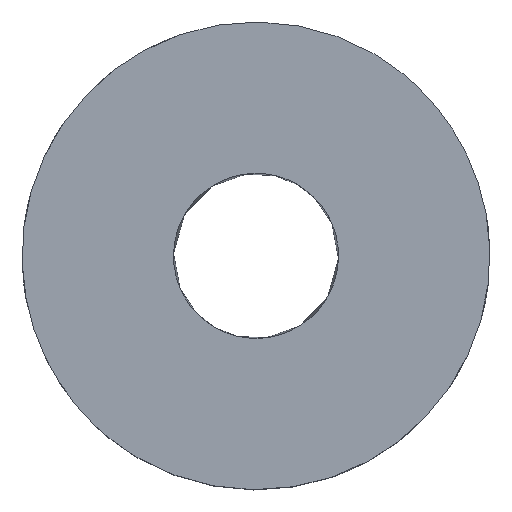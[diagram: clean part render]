
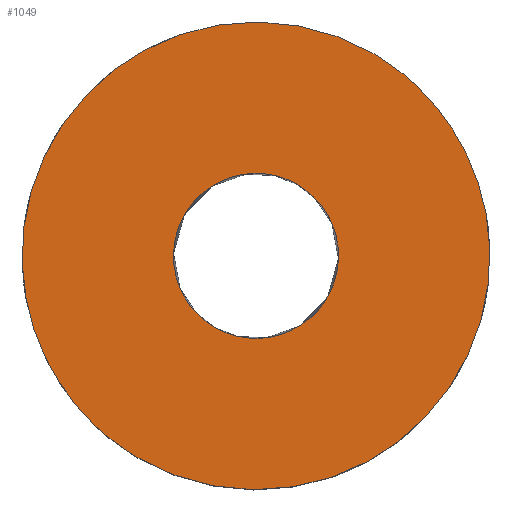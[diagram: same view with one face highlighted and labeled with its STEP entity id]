
A CAD part, top view. The second image highlights one B-rep face of the part: STEP entity #1049.
In plain terms, the highlighted planar face has unit normal (0, 0, 1).
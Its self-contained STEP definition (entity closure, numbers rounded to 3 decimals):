
#16=CARTESIAN_POINT('',(75.5,94.167,1.0));
#17=VERTEX_POINT('',#16);
#18=CARTESIAN_POINT('',(24.5,5.833,1.0));
#19=VERTEX_POINT('',#18);
#20=CARTESIAN_POINT('',(75.5,94.167,1.0));
#21=CARTESIAN_POINT('',(-12.835,145.167,1.0));
#22=CARTESIAN_POINT('',(-63.835,56.833,1.0));
#23=CARTESIAN_POINT('',(24.5,5.833,1.0));
#24=(BOUNDED_CURVE() B_SPLINE_CURVE(3,(#20,#21,#22,#23),.UNSPECIFIED.,.F.,.U.)
  B_SPLINE_CURVE_WITH_KNOTS((4,4),(0.0,1.0),.UNSPECIFIED.)
  CURVE() GEOMETRIC_REPRESENTATION_ITEM() RATIONAL_B_SPLINE_CURVE((1.0,0.333,0.333,1.0))  REPRESENTATION_ITEM('') );
#25=EDGE_CURVE('',#17,#19,#24,.T.);
#66=CARTESIAN_POINT('',(24.5,5.833,1.0));
#67=CARTESIAN_POINT('',(112.835,-45.167,1.0));
#68=CARTESIAN_POINT('',(163.835,43.167,1.0));
#69=CARTESIAN_POINT('',(75.5,94.167,1.0));
#70=(BOUNDED_CURVE() B_SPLINE_CURVE(3,(#66,#67,#68,#69),.UNSPECIFIED.,.F.,.U.)
  B_SPLINE_CURVE_WITH_KNOTS((4,4),(0.0,1.0),.UNSPECIFIED.)
  CURVE() GEOMETRIC_REPRESENTATION_ITEM() RATIONAL_B_SPLINE_CURVE((1.0,0.333,0.333,1.0))  REPRESENTATION_ITEM('') );
#71=EDGE_CURVE('',#19,#17,#70,.T.);
#218=CARTESIAN_POINT('',(59.0,65.588,1.0));
#219=VERTEX_POINT('',#218);
#220=CARTESIAN_POINT('',(41.0,34.412,1.0));
#221=VERTEX_POINT('',#220);
#222=CARTESIAN_POINT('',(59.0,65.588,1.0));
#223=CARTESIAN_POINT('',(58.35,65.963,1.0));
#224=CARTESIAN_POINT('',(57.637,66.322,1.0));
#225=CARTESIAN_POINT('',(56.851,66.645,1.0));
#226=CARTESIAN_POINT('',(56.065,66.969,1.0));
#227=CARTESIAN_POINT('',(55.208,67.257,1.0));
#228=CARTESIAN_POINT('',(54.275,67.485,1.0));
#229=CARTESIAN_POINT('',(53.343,67.713,1.0));
#230=CARTESIAN_POINT('',(52.335,67.88,1.0));
#231=CARTESIAN_POINT('',(51.259,67.956,1.0));
#232=CARTESIAN_POINT('',(50.183,68.031,1.0));
#233=CARTESIAN_POINT('',(49.038,68.014,1.0));
#234=CARTESIAN_POINT('',(47.847,67.871,1.0));
#235=CARTESIAN_POINT('',(46.655,67.727,1.0));
#236=CARTESIAN_POINT('',(45.417,67.456,1.0));
#237=CARTESIAN_POINT('',(44.173,67.031,1.0));
#238=CARTESIAN_POINT('',(42.929,66.605,1.0));
#239=CARTESIAN_POINT('',(41.679,66.023,1.0));
#240=CARTESIAN_POINT('',(40.481,65.277,1.0));
#241=CARTESIAN_POINT('',(39.282,64.53,1.0));
#242=CARTESIAN_POINT('',(38.137,63.618,1.0));
#243=CARTESIAN_POINT('',(37.106,62.56,1.0));
#244=CARTESIAN_POINT('',(36.076,61.502,1.0));
#245=CARTESIAN_POINT('',(35.161,60.299,1.0));
#246=CARTESIAN_POINT('',(34.411,59.,1.0));
#247=CARTESIAN_POINT('',(33.661,57.701,1.0));
#248=CARTESIAN_POINT('',(33.077,56.307,1.0));
#249=CARTESIAN_POINT('',(32.676,54.886,1.0));
#250=CARTESIAN_POINT('',(32.275,53.464,1.0));
#251=CARTESIAN_POINT('',(32.058,52.016,1.0));
#252=CARTESIAN_POINT('',(32.01,50.605,1.0));
#253=CARTESIAN_POINT('',(31.963,49.194,1.0));
#254=CARTESIAN_POINT('',(32.084,47.821,1.0));
#255=CARTESIAN_POINT('',(32.337,46.531,1.0));
#256=CARTESIAN_POINT('',(32.591,45.24,1.0));
#257=CARTESIAN_POINT('',(32.976,44.033,1.0));
#258=CARTESIAN_POINT('',(33.447,42.929,1.0));
#259=CARTESIAN_POINT('',(33.918,41.826,1.0));
#260=CARTESIAN_POINT('',(34.476,40.826,1.0));
#261=CARTESIAN_POINT('',(35.079,39.932,1.0));
#262=CARTESIAN_POINT('',(35.683,39.038,1.0));
#263=CARTESIAN_POINT('',(36.332,38.249,1.0));
#264=CARTESIAN_POINT('',(36.995,37.555,1.0));
#265=CARTESIAN_POINT('',(37.659,36.861,1.0));
#266=CARTESIAN_POINT('',(38.338,36.263,1.0));
#267=CARTESIAN_POINT('',(39.01,35.744,1.0));
#268=CARTESIAN_POINT('',(39.683,35.225,1.0));
#269=CARTESIAN_POINT('',(40.351,34.786,1.0));
#270=CARTESIAN_POINT('',(41.0,34.412,1.0));
#271=B_SPLINE_CURVE_WITH_KNOTS('',3,(#222,#223,#224,#225,#226,#227,#228,#229,#230,#231,
    #232,#233,#234,#235,#236,#237,#238,#239,#240,#241,
    #242,#243,#244,#245,#246,#247,#248,#249,#250,#251,
    #252,#253,#254,#255,#256,#257,#258,#259,#260,#261,
    #262,#263,#264,#265,#266,#267,#268,#269,#270),.UNSPECIFIED.,.F.,.U.,
 (4,2,1,2,1,2,1,2,1,2,1,2,1,2,1,2,1,2,1,2,
  1,2,1,2,1,2,1,2,1,2,1,4),
 (0.0,0.042,0.042,0.09,0.09,0.144,0.144,0.205,0.205,0.271,0.271,0.344,0.344,0.421,0.421,0.5,0.5,0.579,0.579,0.656,
  0.656,0.729,0.729,0.795,0.795,0.856,0.856,0.91,0.91,0.958,0.958,1.0),.UNSPECIFIED.);
#272=EDGE_CURVE('',#219,#221,#271,.T.);
#634=CARTESIAN_POINT('',(41.0,34.412,1.0));
#635=CARTESIAN_POINT('',(41.65,34.037,1.0));
#636=CARTESIAN_POINT('',(42.363,33.678,1.0));
#637=CARTESIAN_POINT('',(43.149,33.355,1.0));
#638=CARTESIAN_POINT('',(43.935,33.031,1.0));
#639=CARTESIAN_POINT('',(44.792,32.743,1.0));
#640=CARTESIAN_POINT('',(45.725,32.515,1.0));
#641=CARTESIAN_POINT('',(46.657,32.287,1.0));
#642=CARTESIAN_POINT('',(47.665,32.12,1.0));
#643=CARTESIAN_POINT('',(48.741,32.044,1.0));
#644=CARTESIAN_POINT('',(49.817,31.969,1.0));
#645=CARTESIAN_POINT('',(50.962,31.986,1.0));
#646=CARTESIAN_POINT('',(52.153,32.129,1.0));
#647=CARTESIAN_POINT('',(53.345,32.273,1.0));
#648=CARTESIAN_POINT('',(54.583,32.544,1.0));
#649=CARTESIAN_POINT('',(55.827,32.969,1.0));
#650=CARTESIAN_POINT('',(57.071,33.395,1.0));
#651=CARTESIAN_POINT('',(58.321,33.977,1.0));
#652=CARTESIAN_POINT('',(59.519,34.723,1.0));
#653=CARTESIAN_POINT('',(60.718,35.47,1.0));
#654=CARTESIAN_POINT('',(61.863,36.382,1.0));
#655=CARTESIAN_POINT('',(62.894,37.44,1.0));
#656=CARTESIAN_POINT('',(63.924,38.498,1.0));
#657=CARTESIAN_POINT('',(64.839,39.701,1.0));
#658=CARTESIAN_POINT('',(65.589,41.,1.0));
#659=CARTESIAN_POINT('',(66.339,42.299,1.0));
#660=CARTESIAN_POINT('',(66.923,43.693,1.0));
#661=CARTESIAN_POINT('',(67.324,45.114,1.0));
#662=CARTESIAN_POINT('',(67.725,46.536,1.0));
#663=CARTESIAN_POINT('',(67.942,47.984,1.0));
#664=CARTESIAN_POINT('',(67.99,49.395,1.0));
#665=CARTESIAN_POINT('',(68.037,50.806,1.0));
#666=CARTESIAN_POINT('',(67.916,52.179,1.0));
#667=CARTESIAN_POINT('',(67.663,53.469,1.0));
#668=CARTESIAN_POINT('',(67.409,54.76,1.0));
#669=CARTESIAN_POINT('',(67.024,55.967,1.0));
#670=CARTESIAN_POINT('',(66.553,57.071,1.0));
#671=CARTESIAN_POINT('',(66.082,58.174,1.0));
#672=CARTESIAN_POINT('',(65.524,59.174,1.0));
#673=CARTESIAN_POINT('',(64.921,60.068,1.0));
#674=CARTESIAN_POINT('',(64.317,60.962,1.0));
#675=CARTESIAN_POINT('',(63.668,61.751,1.0));
#676=CARTESIAN_POINT('',(63.005,62.445,1.0));
#677=CARTESIAN_POINT('',(62.341,63.139,1.0));
#678=CARTESIAN_POINT('',(61.662,63.737,1.0));
#679=CARTESIAN_POINT('',(60.99,64.256,1.0));
#680=CARTESIAN_POINT('',(60.317,64.775,1.0));
#681=CARTESIAN_POINT('',(59.649,65.214,1.0));
#682=CARTESIAN_POINT('',(59.0,65.588,1.0));
#683=B_SPLINE_CURVE_WITH_KNOTS('',3,(#634,#635,#636,#637,#638,#639,#640,#641,#642,#643,
    #644,#645,#646,#647,#648,#649,#650,#651,#652,#653,
    #654,#655,#656,#657,#658,#659,#660,#661,#662,#663,
    #664,#665,#666,#667,#668,#669,#670,#671,#672,#673,
    #674,#675,#676,#677,#678,#679,#680,#681,#682),.UNSPECIFIED.,.F.,.U.,
 (4,2,1,2,1,2,1,2,1,2,1,2,1,2,1,2,1,2,1,2,
  1,2,1,2,1,2,1,2,1,2,1,4),
 (0.0,0.042,0.042,0.09,0.09,0.144,0.144,0.205,0.205,0.271,0.271,0.344,0.344,0.421,0.421,0.5,0.5,0.579,0.579,0.656,
  0.656,0.729,0.729,0.795,0.795,0.856,0.856,0.91,0.91,0.958,0.958,1.0),.UNSPECIFIED.);
#684=EDGE_CURVE('',#221,#219,#683,.T.);
#1036=ORIENTED_EDGE('',*,*,#272,.F.);
#1037=ORIENTED_EDGE('',*,*,#684,.F.);
#1038=EDGE_LOOP('',(#1036,#1037));
#1039=FACE_BOUND('',#1038,.T.);
#1040=ORIENTED_EDGE('',*,*,#25,.T.);
#1041=ORIENTED_EDGE('',*,*,#71,.T.);
#1042=EDGE_LOOP('',(#1040,#1041));
#1043=FACE_OUTER_BOUND('',#1042,.T.);
#1044=CARTESIAN_POINT('',(50.0,50.0,1.0));
#1045=DIRECTION('',(0.0,0.0,1.0));
#1046=DIRECTION('',(0.866,-0.5,0.0));
#1047=AXIS2_PLACEMENT_3D('',#1044,#1045,#1046);
#1048=PLANE('',#1047);
#1049=ADVANCED_FACE('',(#1039,#1043),#1048,.T.);
